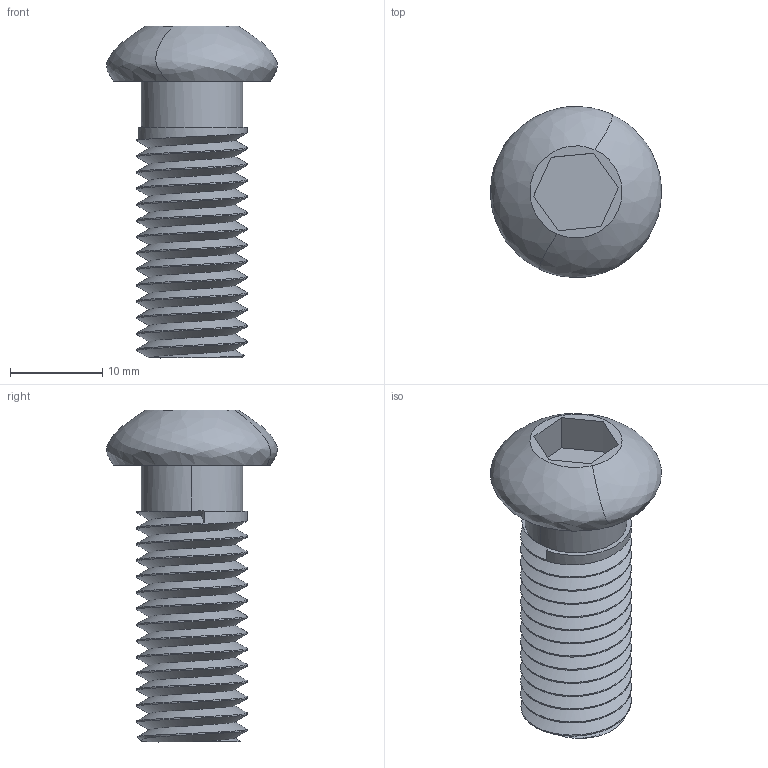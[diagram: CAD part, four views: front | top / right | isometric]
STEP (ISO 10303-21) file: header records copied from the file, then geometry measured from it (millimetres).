
FILE_DESCRIPTION (( 'STEP AP203' ), '1' );
FILE_NAME ('140-CE-FB-12.STEP', '2015-07-09T09:02:01', ( '' ), ( '' ), 'SwSTEP 2.0', 'SolidWorks 2013', '' );
FILE_SCHEMA (( 'CONFIG_CONTROL_DESIGN' ));
Length unit declared in the file: millimetre
Products named in the file (1): 140-CE-FB-12
Bounding box: 18.49 x 18.49 x 36 mm (x, y, z)
Volume: 3795.6 mm3; surface area: 2590.4 mm2
Topology: 1 solids, 1 shells, 49 faces, 135 edges, 90 vertices
Faces by surface type: cylinder 30, plane 12, bspline 4, torus 3
Entity records: 3895 total; most frequent: CARTESIAN_POINT 2757, ORIENTED_EDGE 270, DIRECTION 174, EDGE_CURVE 135, VERTEX_POINT 90, AXIS2_PLACEMENT_3D 61, LINE 52, VECTOR 52
